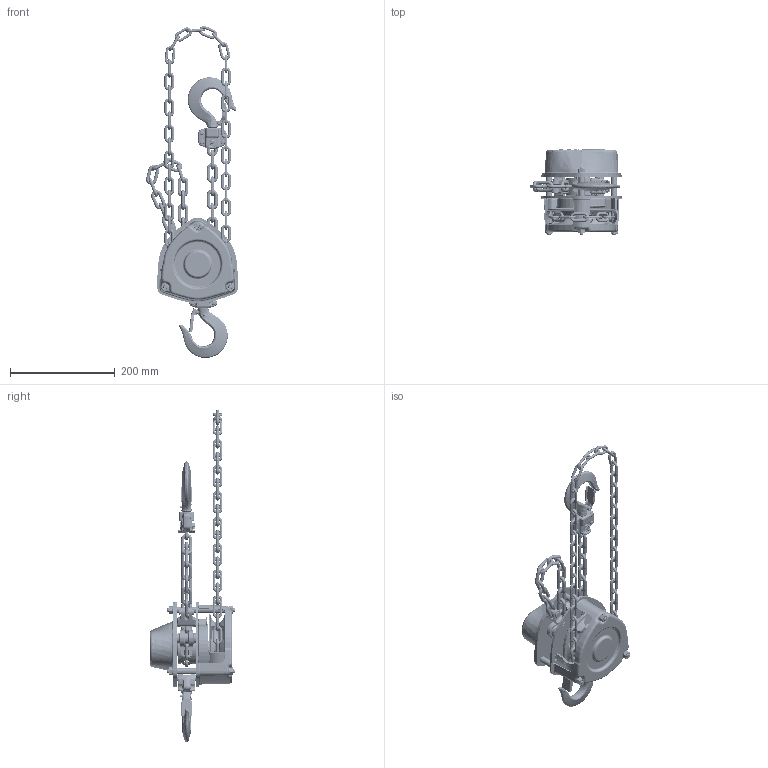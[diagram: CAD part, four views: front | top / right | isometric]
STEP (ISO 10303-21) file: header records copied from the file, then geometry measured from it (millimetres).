
FILE_DESCRIPTION (( 'STEP AP214' ), '1' );
FILE_NAME ('CB010.STEP', '2026-08-13T13:39:28', ( '' ), ( '' ), 'SwSTEP 2.0', 'SolidWorks 2026', '' );
FILE_SCHEMA (( 'AUTOMOTIVE_DESIGN' ));
Length unit declared in the file: inch
Products named in the file (35): C3BA005-91731; 9009412_9009412; 9093424_9093424; C3BA005-91722; M3163010; C3BA010-90011; CF071010; M3101010; C3BA005-91011; M3161010; C3BA010-91021; C3BA005-61012; M3041010; C1FA010-90112; CF001010_90 DEGREE; M3021A010; M3162010; C3BA010-91031; C3BA010-91042; 9012711_9012711; M3800010; C3BA010-90312; M3176010; M3102010; M3177010; HCCF005; M3116010; CB010 Load Chain; M3115005; M3171005; 9009411_9009411; M2049010; CB010; C3BA005-91711; HCCF005 FOR CB015
Assembly tree (121 placements, depth 4):
  CB010
    M3171005
      C3BA005-91711
      C3BA005-91731  x2
    M3101010
      C3BA005-61012
        C3BA005-91011
        C3BA005-91722
      C3BA010-91042  x3
    M3115005
    M3102010
      C3BA010-91021
    C3BA010-91031
    9012711_9012711  x6
    9093424_9093424  x6
    CF001010_90 DEGREE
      C3BA010-90011
      C1FA010-90112  x2
      CF071010
    M3163010
    M3021A010
      C3BA010-90312  x2
      C3BA010-90011
      CF071010
    HCCF005 FOR CB015
      HCCF005  x44
    M3041010
    M2049010
    9009411_9009411
    M3800010
    M3161010  x2
    M3162010
    M3176010
    M3177010
    9009412_9009412
    M3116010
    CB010 Load Chain  x27
Bounding box: 175.48 x 163.4 x 633.26 mm (x, y, z)
Volume: 887844.7 mm3; surface area: 521350.1 mm2
Topology: 114 solids, 114 shells, 4041 faces, 9604 edges, 5667 vertices
Faces by surface type: cylinder 1270, torus 985, plane 753, bspline 601, cone 378, sphere 54
Entity records: 373190 total; most frequent: CARTESIAN_POINT 308546, ORIENTED_EDGE 13116, DIRECTION 12124, EDGE_CURVE 6558, AXIS2_PLACEMENT_3D 5130, VERTEX_POINT 3994, CIRCLE 2892, EDGE_LOOP 2796
